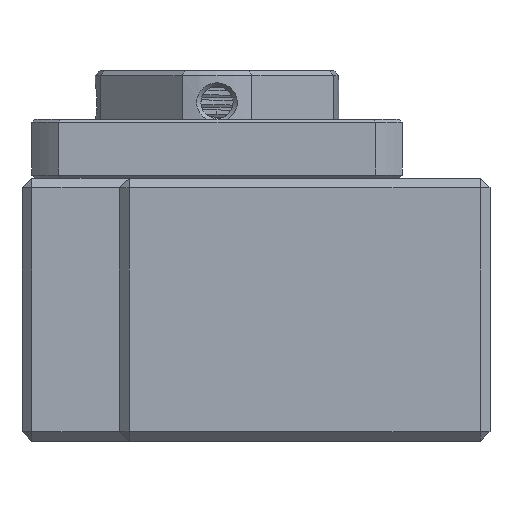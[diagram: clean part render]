
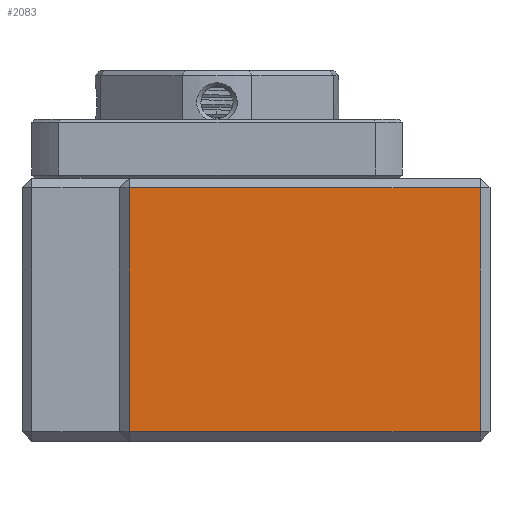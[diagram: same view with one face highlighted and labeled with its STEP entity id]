
A CAD part, left-side view. The second image highlights one B-rep face of the part: STEP entity #2083.
In plain terms, the highlighted planar face has unit normal (-1, 0, 0).
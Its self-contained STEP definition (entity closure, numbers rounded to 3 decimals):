
#2083=ADVANCED_FACE('',(#4464),#4466,.F.);
#4464=FACE_BOUND('',#4465,.T.);
#4465=EDGE_LOOP('',(#12872,#12873,#12874,#12875));
#4466=PLANE('',#4467);
#4467=AXIS2_PLACEMENT_3D('',#4468,#4469,#4470);
#4468=CARTESIAN_POINT('',(-35.,38.,13.5));
#4469=DIRECTION('',(1.,0.,-0.));
#4470=DIRECTION('',(-0.,0.,-1.));
#12872=ORIENTED_EDGE('',*,*,#13660,.T.);
#12873=ORIENTED_EDGE('',*,*,#13661,.T.);
#12874=ORIENTED_EDGE('',*,*,#13662,.T.);
#12875=ORIENTED_EDGE('',*,*,#13663,.T.);
#13660=EDGE_CURVE('',#14420,#14421,#14422,.T.);
#13661=EDGE_CURVE('',#14421,#14423,#14424,.T.);
#13662=EDGE_CURVE('',#14423,#14425,#14426,.T.);
#13663=EDGE_CURVE('',#14425,#14420,#14427,.T.);
#14420=VERTEX_POINT('',#19776);
#14421=VERTEX_POINT('',#19777);
#14422=LINE('',#19778,#19779);
#14423=VERTEX_POINT('',#19781);
#14424=LINE('',#19782,#19783);
#14425=VERTEX_POINT('',#19785);
#14426=LINE('',#19786,#19787);
#14427=LINE('',#19789,#19790);
#19776=CARTESIAN_POINT('',(-35.,37.,-12.5));
#19777=CARTESIAN_POINT('',(-35.,1.,-12.5));
#19778=CARTESIAN_POINT('',(-35.,37.,-12.5));
#19779=VECTOR('',#19780,1.);
#19780=DIRECTION('',(0.,-1.,0.));
#19781=CARTESIAN_POINT('',(-35.,1.,12.5));
#19782=CARTESIAN_POINT('',(-35.,1.,-12.5));
#19783=VECTOR('',#19784,1.);
#19784=DIRECTION('',(0.,0.,1.));
#19785=CARTESIAN_POINT('',(-35.,37.,12.5));
#19786=CARTESIAN_POINT('',(-35.,1.,12.5));
#19787=VECTOR('',#19788,1.);
#19788=DIRECTION('',(0.,1.,0.));
#19789=CARTESIAN_POINT('',(-35.,37.,12.5));
#19790=VECTOR('',#19791,1.);
#19791=DIRECTION('',(0.,0.,-1.));
